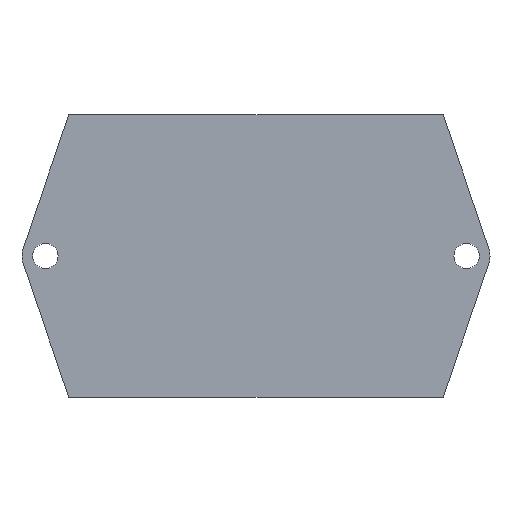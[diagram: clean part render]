
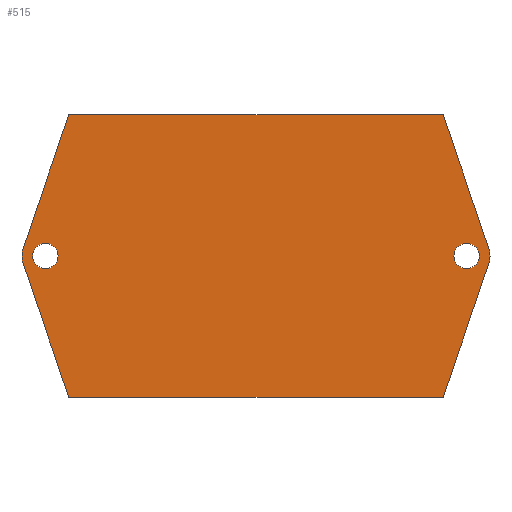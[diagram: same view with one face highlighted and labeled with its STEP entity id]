
A CAD part, front view. The second image highlights one B-rep face of the part: STEP entity #515.
In plain terms, the highlighted planar face has unit normal (0, -1, 0).
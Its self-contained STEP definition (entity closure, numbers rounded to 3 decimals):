
#84=CARTESIAN_POINT('',(43.85,0.0,-15.1));
#85=VERTEX_POINT('',#84);
#86=CARTESIAN_POINT('',(42.5,0.0,-15.1));
#87=DIRECTION('',(0.0,1.0,0.0));
#88=DIRECTION('',(-1.0,0.0,0.0));
#89=AXIS2_PLACEMENT_3D('',#86,#87,#88);
#90=CIRCLE('',#89,1.35);
#91=EDGE_CURVE('',#85,#85,#90,.T.);
#101=CARTESIAN_POINT('',(40.,0.0,-30.2));
#102=VERTEX_POINT('',#101);
#103=CARTESIAN_POINT('',(44.867,0.0,-15.906));
#104=VERTEX_POINT('',#103);
#105=CARTESIAN_POINT('',(40.,0.0,-30.2));
#106=DIRECTION('',(0.322,0.0,0.947));
#107=VECTOR('',#106,15.1);
#108=LINE('',#105,#107);
#109=EDGE_CURVE('',#102,#104,#108,.T.);
#141=CARTESIAN_POINT('',(44.867,0.0,-14.294));
#142=VERTEX_POINT('',#141);
#143=CARTESIAN_POINT('',(42.5,0.0,-15.1));
#144=DIRECTION('',(0.0,-1.0,0.0));
#145=DIRECTION('',(0.947,0.0,-0.322));
#146=AXIS2_PLACEMENT_3D('',#143,#144,#145);
#147=CIRCLE('',#146,2.5);
#148=EDGE_CURVE('',#104,#142,#147,.T.);
#174=CARTESIAN_POINT('',(40.,0.0,0.));
#175=VERTEX_POINT('',#174);
#176=CARTESIAN_POINT('',(44.867,0.0,-14.294));
#177=DIRECTION('',(-0.322,0.0,0.947));
#178=VECTOR('',#177,15.1);
#179=LINE('',#176,#178);
#180=EDGE_CURVE('',#142,#175,#179,.T.);
#236=CARTESIAN_POINT('',(-1.15,0.0,-15.1));
#237=VERTEX_POINT('',#236);
#238=CARTESIAN_POINT('',(-2.5,0.0,-15.1));
#239=DIRECTION('',(0.0,1.0,0.0));
#240=DIRECTION('',(-1.0,0.0,0.0));
#241=AXIS2_PLACEMENT_3D('',#238,#239,#240);
#242=CIRCLE('',#241,1.35);
#243=EDGE_CURVE('',#237,#237,#242,.T.);
#253=CARTESIAN_POINT('',(-4.867,0.0,-14.294));
#254=VERTEX_POINT('',#253);
#255=CARTESIAN_POINT('',(-4.867,0.0,-15.906));
#256=VERTEX_POINT('',#255);
#257=CARTESIAN_POINT('',(-2.5,0.0,-15.1));
#258=DIRECTION('',(0.0,-1.0,0.0));
#259=DIRECTION('',(-0.947,0.0,0.322));
#260=AXIS2_PLACEMENT_3D('',#257,#258,#259);
#261=CIRCLE('',#260,2.5);
#262=EDGE_CURVE('',#254,#256,#261,.T.);
#295=CARTESIAN_POINT('',(0.,0.0,-30.2));
#296=VERTEX_POINT('',#295);
#297=CARTESIAN_POINT('',(-4.867,0.0,-15.906));
#298=DIRECTION('',(0.322,0.0,-0.947));
#299=VECTOR('',#298,15.1);
#300=LINE('',#297,#299);
#301=EDGE_CURVE('',#256,#296,#300,.T.);
#326=CARTESIAN_POINT('',(0.0,0.0,0.0));
#327=VERTEX_POINT('',#326);
#328=CARTESIAN_POINT('',(0.0,0.0,0.0));
#329=DIRECTION('',(-0.322,0.0,-0.947));
#330=VECTOR('',#329,15.1);
#331=LINE('',#328,#330);
#332=EDGE_CURVE('',#327,#254,#331,.T.);
#408=CARTESIAN_POINT('',(40.,0.0,-30.2));
#409=DIRECTION('',(-1.0,0.0,0.0));
#410=VECTOR('',#409,40.);
#411=LINE('',#408,#410);
#412=EDGE_CURVE('',#102,#296,#411,.T.);
#463=CARTESIAN_POINT('',(0.0,0.0,0.0));
#464=DIRECTION('',(1.0,0.0,0.0));
#465=VECTOR('',#464,40.);
#466=LINE('',#463,#465);
#467=EDGE_CURVE('',#327,#175,#466,.T.);
#494=CARTESIAN_POINT('',(20.,0.0,-15.1));
#495=DIRECTION('',(0.0,-1.0,0.0));
#496=DIRECTION('',(0.0,0.0,-1.0));
#497=AXIS2_PLACEMENT_3D('',#494,#495,#496);
#498=PLANE('',#497);
#499=ORIENTED_EDGE('',*,*,#467,.F.);
#500=ORIENTED_EDGE('',*,*,#332,.T.);
#501=ORIENTED_EDGE('',*,*,#262,.T.);
#502=ORIENTED_EDGE('',*,*,#301,.T.);
#503=ORIENTED_EDGE('',*,*,#412,.F.);
#504=ORIENTED_EDGE('',*,*,#109,.T.);
#505=ORIENTED_EDGE('',*,*,#148,.T.);
#506=ORIENTED_EDGE('',*,*,#180,.T.);
#507=EDGE_LOOP('',(#499,#500,#501,#502,#503,#504,#505,#506));
#508=FACE_OUTER_BOUND('',#507,.T.);
#509=ORIENTED_EDGE('',*,*,#91,.T.);
#510=EDGE_LOOP('',(#509));
#511=FACE_BOUND('',#510,.T.);
#512=ORIENTED_EDGE('',*,*,#243,.T.);
#513=EDGE_LOOP('',(#512));
#514=FACE_BOUND('',#513,.T.);
#515=ADVANCED_FACE('',(#508,#511,#514),#498,.T.);
